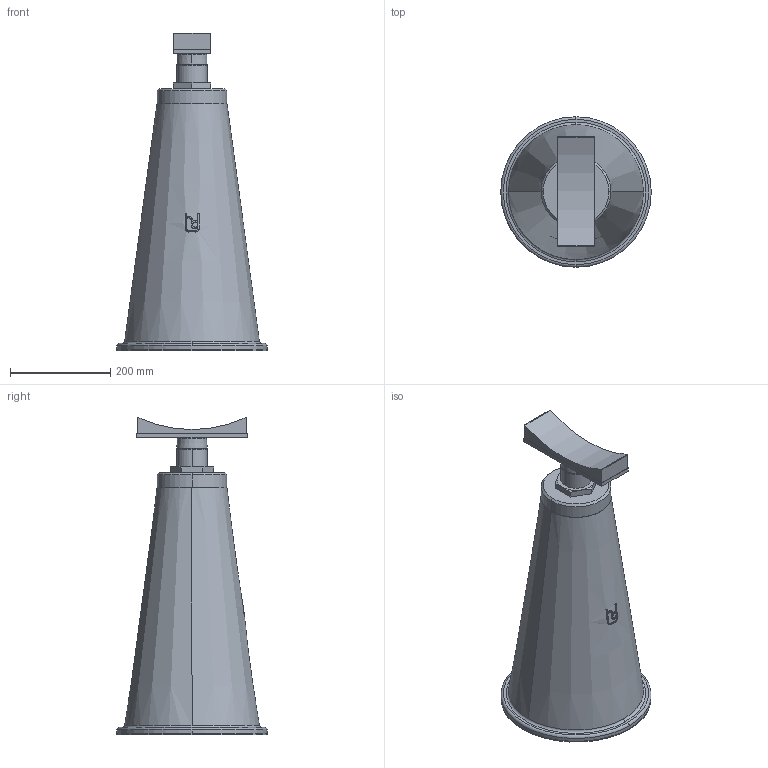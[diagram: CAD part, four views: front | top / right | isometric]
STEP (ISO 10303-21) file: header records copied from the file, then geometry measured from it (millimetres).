
FILE_DESCRIPTION(('STEP AP214'),'1');
FILE_NAME('RSRFC_DN500.stp','2018-06-27T10:09:14',(' '),(' '),'Spatial InterOp 3D',' ',' ');
FILE_SCHEMA(('automotive_design'));
Length unit declared in the file: millimetre
Products named in the file (6): 1; 2; 3; 4; 5; 6
Bounding box: 300 x 300 x 632.11 mm (x, y, z)
Volume: 18910133.8 mm3; surface area: 747878.7 mm2
Topology: 6 solids, 6 shells, 113 faces, 279 edges, 183 vertices
Faces by surface type: plane 50, cylinder 32, cone 23, torus 8
Entity records: 4957 total; most frequent: CARTESIAN_POINT 1243, DIRECTION 569, ORIENTED_EDGE 558, EDGE_CURVE 279, AXIS2_PLACEMENT_3D 219, VERTEX_POINT 183, LINE 131, VECTOR 131
